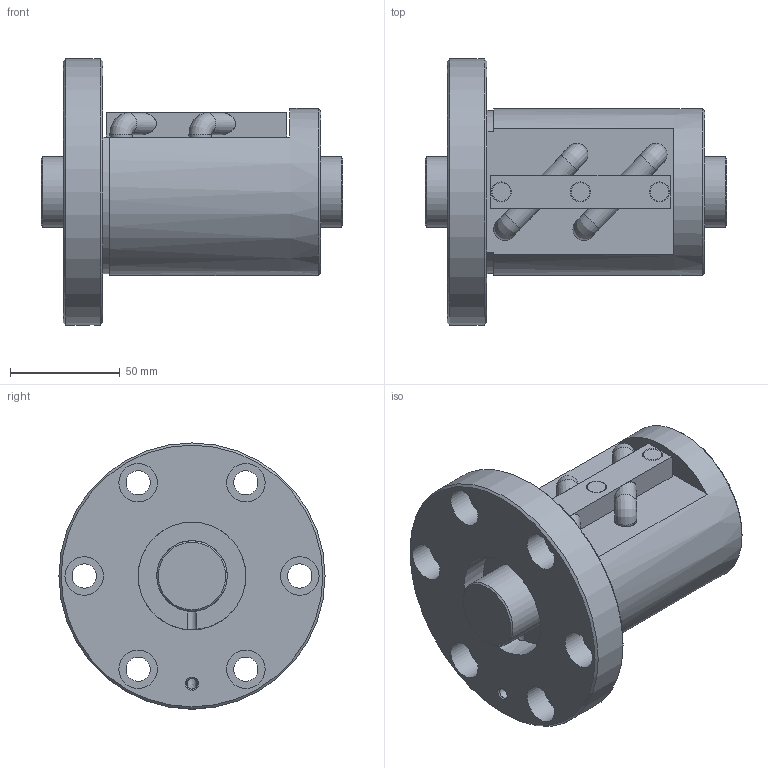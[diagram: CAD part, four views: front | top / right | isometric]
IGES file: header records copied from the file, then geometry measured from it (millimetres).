
Start section: Data from Parasolid IGES Translator 26.0.171, Copyright(c) 2006 Siemens PLM Software. All Rights Reserved.
Global section: file name: BIF3212V-5RRG0+137LC0_000.igs; native system: By Siemens PLM Incorporated; preprocessor: XPlus GENERIC/IGES 26.0.171; author: Noname; organization: Noname; date: 20240715.082325; units: millimetre
Bounding box: 137 x 121 x 121 mm (x, y, z)
Surface area: 89344.9 mm2 (no closed solid volume)
Topology: 0 solids, 0 shells, 99 faces, 470 edges, 422 vertices
Faces by surface type: revolution 58, extrusion 41
